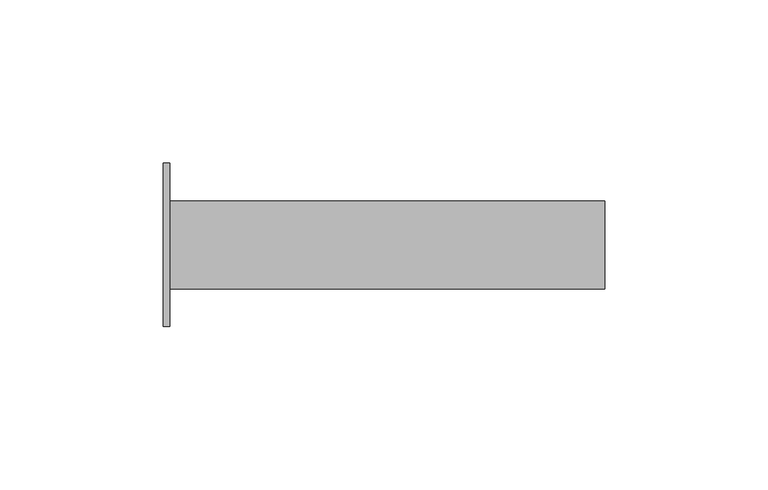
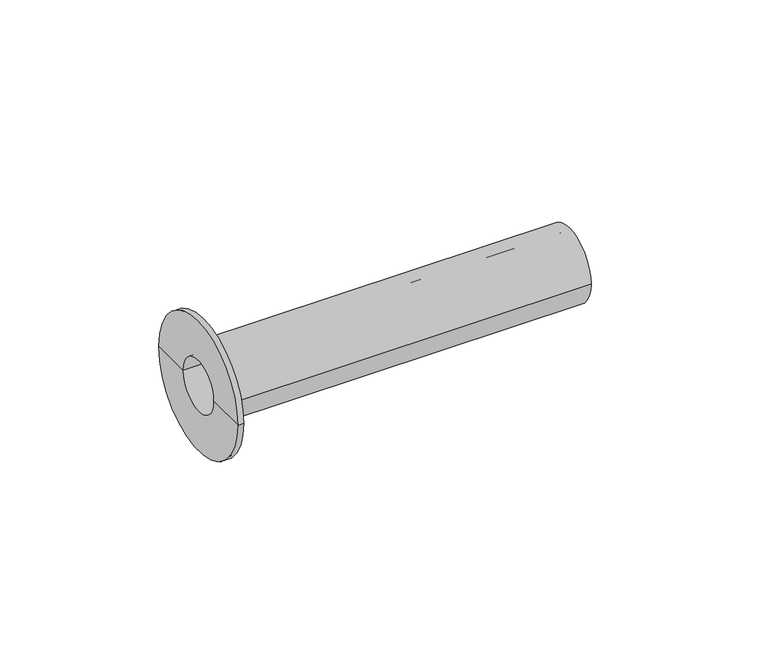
"""IFC4 building model written with IfcOpenShell, lengths in millimetres: pipe fitting geometry, NLRS_50_PIF_UN_Geberit Mapress rvs flenskraag met insteekeinde, voor losse flens PN 6_PRO_103073 : DN20-100 / d22-108 - OD."""

from ifc_helpers import new_model, si_unit, frame, origin, place, context, project, spatial, polyline, circle_curve, source, transform, mapped, element, save
from ifc_brep_helpers import plane_surface, cylinder_surface, revolved_surface, advanced_brep


def pipe_fitting_fbca41b0(model_context):
    return source(origin(), model_context, "Body", "AdvancedBrep", [
        advanced_brep(
        [(0.0, -25.0, 0.0), (0.0, 25.0, 0.0), (0.0, 13.5, 0.0), (0.0, -13.5, 0.0), (-2.0, -25.0, 0.0), (-2.0, 25.0, 0.0), (-2.0, -9.8, 0.0), (-2.0, 9.8, 0.0), (133.0, -13.5, 0.0), (133.0, 13.5, 0.0), (133.0, 9.8, 0.0), (133.0, -9.8, 0.0)],
        [
            (0, 1, circle_curve(frame((0.0, 0.0, 0.0), z_axis=(1.0, 0.0, 0.0), x_axis=(0.0, 1.0, 0.0)), 25.0)),
            (1, 2),
            (2, 3, circle_curve(frame((0.0, 0.0, 0.0), z_axis=(-1.0, 0.0, 0.0), x_axis=(0.0, 1.0, 0.0)), 13.5)),
            (3, 0),
            (1, 0, circle_curve(frame((0.0, 0.0, 0.0), z_axis=(1.0, 0.0, 0.0), x_axis=(0.0, 1.0, 0.0)), 25.0)),
            (3, 2, circle_curve(frame((0.0, 0.0, 0.0), z_axis=(-1.0, 0.0, 0.0), x_axis=(0.0, 1.0, 0.0)), 13.5)),
            (4, 5, circle_curve(frame((-2.0, 0.0, 0.0), z_axis=(1.0, 0.0, 0.0), x_axis=(0.0, 1.0, 0.0)), 25.0)),
            (5, 1),
            (0, 4),
            (5, 4, circle_curve(frame((-2.0, 0.0, 0.0), z_axis=(1.0, 0.0, 0.0), x_axis=(0.0, 1.0, 0.0)), 25.0)),
            (6, 7, circle_curve(frame((-2.0, 0.0, 0.0), z_axis=(1.0, 0.0, 0.0), x_axis=(0.0, 1.0, 0.0)), 9.8)),
            (7, 5),
            (4, 6),
            (7, 6, circle_curve(frame((-2.0, 0.0, 0.0), z_axis=(1.0, 0.0, 0.0), x_axis=(0.0, 1.0, 0.0)), 9.8)),
            (8, 9, circle_curve(frame((133.0, 0.0, 0.0), z_axis=(1.0, 0.0, 0.0), x_axis=(0.0, 1.0, 0.0)), 13.5)),
            (9, 10),
            (10, 11, circle_curve(frame((133.0, 0.0, 0.0), z_axis=(-1.0, 0.0, 0.0), x_axis=(0.0, 1.0, 0.0)), 9.8)),
            (11, 8),
            (9, 8, circle_curve(frame((133.0, 0.0, 0.0), z_axis=(1.0, 0.0, 0.0), x_axis=(0.0, 1.0, 0.0)), 13.5)),
            (11, 10, circle_curve(frame((133.0, 0.0, 0.0), z_axis=(-1.0, 0.0, 0.0), x_axis=(0.0, 1.0, 0.0)), 9.8)),
            (2, 9),
            (8, 3),
            (10, 7),
            (6, 11),
        ],
        [
            plane_surface(frame((0.0, 0.0, 0.0), z_axis=(1.0, 0.0, 0.0), x_axis=(0.0, 1.0, 0.0))),
            cylinder_surface(frame((-2.0, 0.0, 0.0), z_axis=(-1.0, 0.0, 0.0), x_axis=(0.0, 1.0, 0.0)), 25.0),
            plane_surface(frame((-2.0, 0.0, 0.0), z_axis=(-1.0, 0.0, 0.0), x_axis=(0.0, 1.0, 0.0))),
            plane_surface(frame((133.0, 0.0, 0.0), z_axis=(1.0, 0.0, 0.0), x_axis=(0.0, 1.0, 0.0))),
            cylinder_surface(frame((-2.0, 0.0, 0.0), z_axis=(-1.0, 0.0, 0.0), x_axis=(0.0, 1.0, 0.0)), 13.5),
            revolved_surface(polyline([(-2.0, 9.8, 0.0), (133.0, 9.8, 0.0)]), (-2.0, 0.0, 0.0), (-1.0, 0.0, 0.0)),
        ],
        [
            (0, [[1, 2, 3, 4]]),
            (0, [[5, -4, 6, -2]]),
            (1, [[7, 8, -1, 9]]),
            (1, [[10, -9, -5, -8]]),
            (2, [[11, 12, -7, 13]]),
            (2, [[14, -13, -10, -12]]),
            (3, [[15, 16, 17, 18]]),
            (3, [[19, -18, 20, -16]]),
            (4, [[-3, 21, -15, 22]]),
            (4, [[-6, -22, -19, -21]]),
            (5, [[-17, 23, -11, 24]]),
            (5, [[-20, -24, -14, -23]]),
        ],
    ),
    ])


if __name__ == "__main__":
    model = new_model("IFC4")
    model_context = context("Model", 3, world=origin())
    ifc_project = project(units=[si_unit("LENGTHUNIT", "METRE", prefix="MILLI")], contexts=[model_context])
    site = spatial("IfcSite", under=ifc_project)
    building = spatial("IfcBuilding", under=site)
    placement = place(None, origin())
    pipe_fitting_shape = pipe_fitting_fbca41b0(model_context)
    element("IfcPipeFitting", 1, ObjectType="NLRS_50_PIF_UN_Geberit Mapress rvs flenskraag met insteekeinde, voor losse flens PN 6_PRO_103073 : DN20-100 / d22-108 - OD", at=placement, inside=building, context=model_context, shape_type="MappedRepresentation", body=[
        mapped(pipe_fitting_shape, transform((0.0, 0.0, 0.0), x_axis=(1.0, 0.0, 0.0), y_axis=(0.0, 1.0, 0.0), z_axis=(0.0, 0.0, 1.0))),
    ])
    save(model, "model.ifc")
